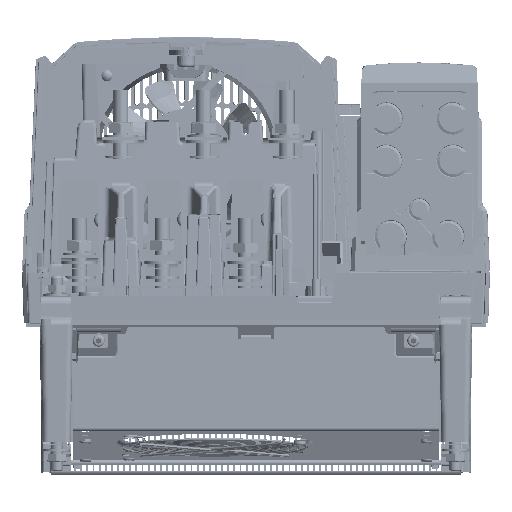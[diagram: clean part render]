
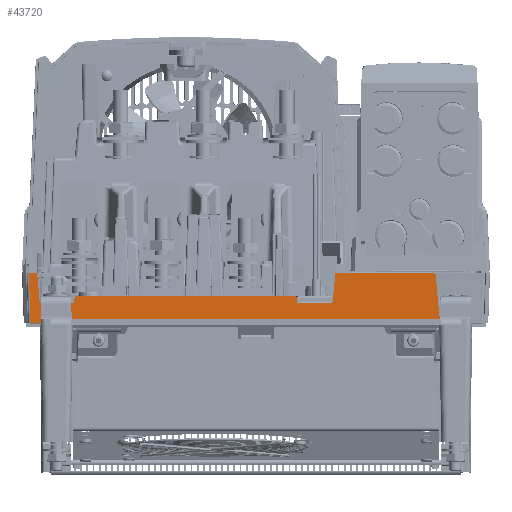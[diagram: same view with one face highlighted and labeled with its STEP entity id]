
A CAD part, front view. The second image highlights one B-rep face of the part: STEP entity #43720.
In plain terms, the highlighted planar face has unit normal (0, -0.999, -0.035).
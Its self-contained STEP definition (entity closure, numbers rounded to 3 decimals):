
#171=DIRECTION('',(-1.,0.,0.));
#172=VECTOR('',#171,54.939);
#173=CARTESIAN_POINT('',(118.055,-634.887,-1.5));
#174=LINE('',#173,#172);
#10286=CARTESIAN_POINT('',(118.055,-634.887,-1.5));
#10287=CARTESIAN_POINT('',(118.36,-634.887,-1.5));
#10288=CARTESIAN_POINT('',(118.769,-634.88,
-1.721));
#10289=CARTESIAN_POINT('',(119.024,-634.866,
-2.109));
#10290=CARTESIAN_POINT('',(119.051,-634.855,
-2.413));
#10292=DIRECTION('',(0.087,0.035,-0.996));
#10293=VECTOR('',#10292,31.762);
#10294=CARTESIAN_POINT('',(119.051,-634.855,
-2.413));
#10295=LINE('',#10294,#10293);
#10296=DIRECTION('',(-1.,0.,0.));
#10297=VECTOR('',#10296,271.182);
#10298=CARTESIAN_POINT('',(121.818,-633.751,
-34.035));
#10299=LINE('',#10298,#10297);
#10300=DIRECTION('',(0.035,0.035,-0.999));
#10301=VECTOR('',#10300,32.575);
#10302=CARTESIAN_POINT('',(-150.501,-634.887,-1.5));
#10303=LINE('',#10302,#10301);
#10304=DIRECTION('',(1.,0.,0.));
#10305=VECTOR('',#10304,5.572);
#10306=CARTESIAN_POINT('',(-150.501,-634.887,-1.5));
#10307=LINE('',#10306,#10305);
#10308=DIRECTION('',(0.087,0.035,-0.996));
#10309=VECTOR('',#10308,18.931);
#10310=CARTESIAN_POINT('',(-144.929,-634.887,-1.5));
#10311=LINE('',#10310,#10309);
#10312=CARTESIAN_POINT('',(-143.28,-634.229,
-20.347));
#10313=CARTESIAN_POINT('',(-143.253,-634.219,
-20.651));
#10314=CARTESIAN_POINT('',(-142.997,-634.205,
-21.039));
#10315=CARTESIAN_POINT('',(-142.589,-634.197,-21.26));
#10316=CARTESIAN_POINT('',(-142.284,-634.197,-21.26));
#10318=DIRECTION('',(1.,0.,0.));
#10319=VECTOR('',#10318,20.867);
#10320=CARTESIAN_POINT('',(-142.284,-634.197,-21.26));
#10321=LINE('',#10320,#10319);
#10322=CARTESIAN_POINT('',(-121.416,-634.197,-21.26));
#10323=CARTESIAN_POINT('',(-121.111,-634.197,-21.26));
#10324=CARTESIAN_POINT('',(-120.703,-634.205,
-21.039));
#10325=CARTESIAN_POINT('',(-120.447,-634.219,
-20.651));
#10326=CARTESIAN_POINT('',(-120.42,-634.229,
-20.347));
#10328=DIRECTION('',(0.087,-0.035,0.996));
#10329=VECTOR('',#10328,2.887);
#10330=CARTESIAN_POINT('',(-120.42,-634.229,
-20.347));
#10331=LINE('',#10330,#10329);
#10332=CARTESIAN_POINT('',(-120.169,-634.33,
-17.473));
#10333=CARTESIAN_POINT('',(-120.142,-634.34,
-17.169));
#10334=CARTESIAN_POINT('',(-119.886,-634.354,
-16.781));
#10335=CARTESIAN_POINT('',(-119.478,-634.361,-16.56));
#10336=CARTESIAN_POINT('',(-119.172,-634.361,-16.56));
#10338=DIRECTION('',(1.,0.,0.));
#10339=VECTOR('',#10338,145.095);
#10340=CARTESIAN_POINT('',(-119.172,-634.361,-16.56));
#10341=LINE('',#10340,#10339);
#10342=CARTESIAN_POINT('',(26.919,-634.33,
-17.473));
#10343=CARTESIAN_POINT('',(26.892,-634.34,
-17.169));
#10344=CARTESIAN_POINT('',(26.636,-634.354,
-16.781));
#10345=CARTESIAN_POINT('',(26.228,-634.361,-16.56));
#10346=CARTESIAN_POINT('',(25.922,-634.361,-16.56));
#10348=DIRECTION('',(0.087,0.035,-0.996));
#10349=VECTOR('',#10348,2.887);
#10350=CARTESIAN_POINT('',(26.919,-634.33,
-17.473));
#10351=LINE('',#10350,#10349);
#10352=CARTESIAN_POINT('',(27.17,-634.229,
-20.347));
#10353=CARTESIAN_POINT('',(27.197,-634.219,
-20.651));
#10354=CARTESIAN_POINT('',(27.453,-634.205,
-21.039));
#10355=CARTESIAN_POINT('',(27.861,-634.197,-21.26));
#10356=CARTESIAN_POINT('',(28.166,-634.197,-21.26));
#10358=DIRECTION('',(1.,0.,0.));
#10359=VECTOR('',#10358,21.667);
#10360=CARTESIAN_POINT('',(28.166,-634.197,-21.26));
#10361=LINE('',#10360,#10359);
#10362=CARTESIAN_POINT('',(49.834,-634.197,-21.26));
#10363=CARTESIAN_POINT('',(50.139,-634.197,-21.26));
#10364=CARTESIAN_POINT('',(50.547,-634.205,
-21.039));
#10365=CARTESIAN_POINT('',(50.803,-634.219,
-20.651));
#10366=CARTESIAN_POINT('',(50.83,-634.229,
-20.347));
#10368=DIRECTION('',(0.087,-0.035,0.996));
#10369=VECTOR('',#10368,18.931);
#10370=CARTESIAN_POINT('',(50.83,-634.229,
-20.347));
#10371=LINE('',#10370,#10369);
#18786=CARTESIAN_POINT('',(63.116,-634.887,-1.5));
#18788=DIRECTION('',(-1.,0.,0.));
#18789=VECTOR('',#18788,10.638);
#18790=CARTESIAN_POINT('',(63.116,-634.887,-1.5));
#18791=LINE('',#18790,#18789);
#24923=CARTESIAN_POINT('',(121.818,-633.751,
-34.035));
#29739=VERTEX_POINT('',#10326);
#29740=VERTEX_POINT('',#10322);
#29945=VERTEX_POINT('',#18786);
#30051=CARTESIAN_POINT('',(-142.284,-634.197,-21.26));
#30052=VERTEX_POINT('',#30051);
#30053=CARTESIAN_POINT('',(-144.929,-634.887,-1.5));
#30054=CARTESIAN_POINT('',(-143.28,-634.229,
-20.347));
#30055=VERTEX_POINT('',#30053);
#30056=VERTEX_POINT('',#30054);
#30106=CARTESIAN_POINT('',(52.479,-634.887,-1.5));
#30107=VERTEX_POINT('',#30106);
#30108=VERTEX_POINT('',#10342);
#30109=VERTEX_POINT('',#10346);
#30127=VERTEX_POINT('',#10366);
#30128=VERTEX_POINT('',#10362);
#30139=CARTESIAN_POINT('',(28.166,-634.197,-21.26));
#30140=VERTEX_POINT('',#30139);
#30141=VERTEX_POINT('',#10352);
#30286=VERTEX_POINT('',#10336);
#30287=VERTEX_POINT('',#10332);
#30314=CARTESIAN_POINT('',(-150.501,-634.887,-1.5));
#30315=CARTESIAN_POINT('',(-149.365,-633.751,
-34.035));
#30316=VERTEX_POINT('',#30314);
#30317=VERTEX_POINT('',#30315);
#33352=VERTEX_POINT('',#24923);
#33354=CARTESIAN_POINT('',(118.055,-634.887,-1.5));
#33355=VERTEX_POINT('',#33354);
#33356=CARTESIAN_POINT('',(119.051,-634.855,
-2.413));
#33357=VERTEX_POINT('',#33356);
#43674=CARTESIAN_POINT('',(-156.34,-634.887,-1.5));
#43675=DIRECTION('',(0.,-0.999,-0.035));
#43676=DIRECTION('',(1.,0.,0.));
#43677=AXIS2_PLACEMENT_3D('',#43674,#43675,#43676);
#43678=PLANE('',#43677);
#43679=ORIENTED_EDGE('',*,*,#37535,.F.);
#43681=ORIENTED_EDGE('',*,*,#43680,.T.);
#43683=ORIENTED_EDGE('',*,*,#43682,.T.);
#43685=ORIENTED_EDGE('',*,*,#43684,.T.);
#43687=ORIENTED_EDGE('',*,*,#43686,.F.);
#43689=ORIENTED_EDGE('',*,*,#43688,.T.);
#43691=ORIENTED_EDGE('',*,*,#43690,.T.);
#43693=ORIENTED_EDGE('',*,*,#43692,.T.);
#43695=ORIENTED_EDGE('',*,*,#43694,.T.);
#43697=ORIENTED_EDGE('',*,*,#43696,.T.);
#43699=ORIENTED_EDGE('',*,*,#43698,.T.);
#43701=ORIENTED_EDGE('',*,*,#43700,.T.);
#43703=ORIENTED_EDGE('',*,*,#43702,.T.);
#43705=ORIENTED_EDGE('',*,*,#43704,.F.);
#43707=ORIENTED_EDGE('',*,*,#43706,.T.);
#43709=ORIENTED_EDGE('',*,*,#43708,.T.);
#43711=ORIENTED_EDGE('',*,*,#43710,.T.);
#43713=ORIENTED_EDGE('',*,*,#43712,.T.);
#43715=ORIENTED_EDGE('',*,*,#43714,.T.);
#43717=ORIENTED_EDGE('',*,*,#43716,.F.);
#43718=EDGE_LOOP('',(#43679,#43681,#43683,#43685,#43687,#43689,#43691,#43693,
#43695,#43697,#43699,#43701,#43703,#43705,#43707,#43709,#43711,#43713,#43715,
#43717));
#43719=FACE_OUTER_BOUND('',#43718,.F.);
#43720=ADVANCED_FACE('',(#43719),#43678,.T.);
#10291=B_SPLINE_CURVE_WITH_KNOTS('',3,(#10286,#10287,#10288,#10289,#10290),
.UNSPECIFIED.,.F.,.F.,(4,1,4),(0.,0.5,1.),.UNSPECIFIED.);
#10317=B_SPLINE_CURVE_WITH_KNOTS('',3,(#10312,#10313,#10314,#10315,#10316),
.UNSPECIFIED.,.F.,.F.,(4,1,4),(0.,0.5,1.),.UNSPECIFIED.);
#10327=B_SPLINE_CURVE_WITH_KNOTS('',3,(#10322,#10323,#10324,#10325,#10326),
.UNSPECIFIED.,.F.,.F.,(4,1,4),(0.,0.5,1.),.UNSPECIFIED.);
#10337=B_SPLINE_CURVE_WITH_KNOTS('',3,(#10332,#10333,#10334,#10335,#10336),
.UNSPECIFIED.,.F.,.F.,(4,1,4),(0.,0.5,1.),.UNSPECIFIED.);
#10347=B_SPLINE_CURVE_WITH_KNOTS('',3,(#10342,#10343,#10344,#10345,#10346),
.UNSPECIFIED.,.F.,.F.,(4,1,4),(0.,0.5,1.),.UNSPECIFIED.);
#10357=B_SPLINE_CURVE_WITH_KNOTS('',3,(#10352,#10353,#10354,#10355,#10356),
.UNSPECIFIED.,.F.,.F.,(4,1,4),(0.,0.5,1.),.UNSPECIFIED.);
#10367=B_SPLINE_CURVE_WITH_KNOTS('',3,(#10362,#10363,#10364,#10365,#10366),
.UNSPECIFIED.,.F.,.F.,(4,1,4),(0.,0.5,1.),.UNSPECIFIED.);
#37535=EDGE_CURVE('',#33355,#29945,#174,.T.);
#43680=EDGE_CURVE('',#33355,#33357,#10291,.T.);
#43682=EDGE_CURVE('',#33357,#33352,#10295,.T.);
#43684=EDGE_CURVE('',#33352,#30317,#10299,.T.);
#43686=EDGE_CURVE('',#30316,#30317,#10303,.T.);
#43688=EDGE_CURVE('',#30316,#30055,#10307,.T.);
#43690=EDGE_CURVE('',#30055,#30056,#10311,.T.);
#43692=EDGE_CURVE('',#30056,#30052,#10317,.T.);
#43694=EDGE_CURVE('',#30052,#29740,#10321,.T.);
#43696=EDGE_CURVE('',#29740,#29739,#10327,.T.);
#43698=EDGE_CURVE('',#29739,#30287,#10331,.T.);
#43700=EDGE_CURVE('',#30287,#30286,#10337,.T.);
#43702=EDGE_CURVE('',#30286,#30109,#10341,.T.);
#43704=EDGE_CURVE('',#30108,#30109,#10347,.T.);
#43706=EDGE_CURVE('',#30108,#30141,#10351,.T.);
#43708=EDGE_CURVE('',#30141,#30140,#10357,.T.);
#43710=EDGE_CURVE('',#30140,#30128,#10361,.T.);
#43712=EDGE_CURVE('',#30128,#30127,#10367,.T.);
#43714=EDGE_CURVE('',#30127,#30107,#10371,.T.);
#43716=EDGE_CURVE('',#29945,#30107,#18791,.T.);
